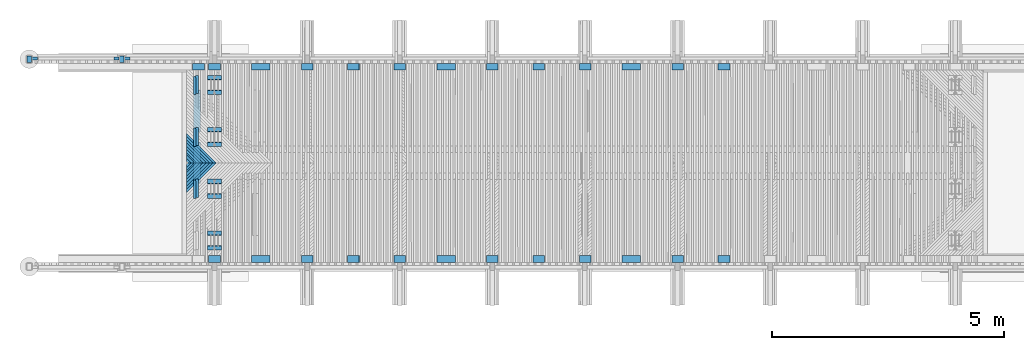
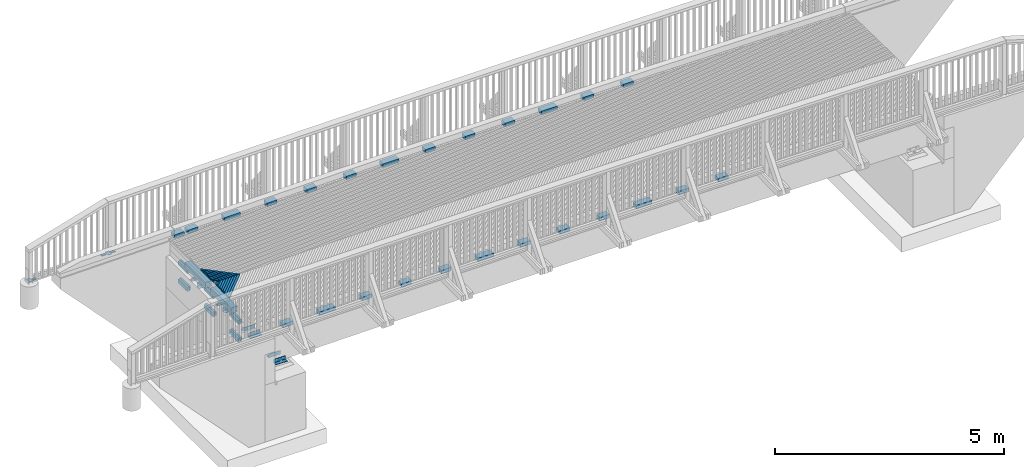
# One storey, part 49 of 53: 70 beams.
"""IFC2X3 building model written with IfcOpenShell, lengths in millimetres."""

from ifc_helpers import new_model, si_unit, frame, origin_with_axes, place, context, subcontext, project, spatial, faceted_brep, material, type_object, element, save


model = new_model("IFC2X3")

# Units and contexts
model_context = context("Model", 3, precision=1e-05, world=origin_with_axes())
body_context = subcontext(model_context, "Body", "Model", "MODEL_VIEW")
ifc_project = project(units=[si_unit("LENGTHUNIT", "METRE", prefix="MILLI"), si_unit("AREAUNIT", "SQUARE_METRE"), si_unit("VOLUMEUNIT", "CUBIC_METRE"), si_unit("MASSUNIT", "GRAM", prefix="KILO"), si_unit("TIMEUNIT", "SECOND"), si_unit("PLANEANGLEUNIT", "RADIAN"), si_unit("SOLIDANGLEUNIT", "STERADIAN"), si_unit("THERMODYNAMICTEMPERATUREUNIT", "DEGREE_CELSIUS"), si_unit("LUMINOUSINTENSITYUNIT", "LUMEN")], contexts=[model_context])

# Site, building, storey
site_placement = place(None, origin_with_axes())
site = spatial("IfcSite", under=ifc_project, at=site_placement, Name="Undefined", CompositionType="ELEMENT")
building_placement = place(site_placement, origin_with_axes())
building = spatial("IfcBuilding", under=site, at=building_placement, Name="Undefined", CompositionType="ELEMENT")
storey_placement = place(building_placement, origin_with_axes())
storey = spatial("IfcBuildingStorey", under=building, at=storey_placement, Name="Undefined", CompositionType="ELEMENT", Elevation=0.0)

# Beams
ifc_material_1 = material(Name="STEEL/AISI316")
beam_type_1 = type_object("IfcBeamType", Name="PL60*10", PredefinedType="NOTDEFINED")
for number, where, z_axis, x_axis in (
    (1, (-3940.00349607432, 44620.0000002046, 3073.75999999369), (-0.000116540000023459, -0.999999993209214, 0.0), (0.999999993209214, -0.000116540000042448, 0.0)),
    (2, (-2059.99650392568, 44620.0000002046, 3101.8699999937), (0.000116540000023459, -0.999999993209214, 0.0), (-0.999999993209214, -0.000116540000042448, 0.0)),
    (3, (-1940.00349607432, 44620.0000002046, 3101.86999999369), (-0.000116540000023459, -0.999999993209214, 0.0), (0.999999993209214, -0.000116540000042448, 0.0)),
):
    element("IfcBeam", number, at=place(storey_placement, frame(where, z_axis=z_axis, x_axis=x_axis)), inside=storey, type_object=beam_type_1, material=ifc_material_1, Name="KAIDEPYLVÄS", ObjectType="PL60*10", context=body_context, shape_type="Brep", body=[
        faceted_brep([(0.0, 5.0, -29.9999999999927), (-3.63797880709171e-12, 5.0, 30.0), (115.000000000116, 5.0, 29.9999999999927), (115.00000000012, 5.0, -30.0), (-3.63797880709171e-12, -5.0, 30.0), (115.000000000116, -5.0, 29.9999999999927), (0.0, -5.0, -29.9999999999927), (115.00000000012, -5.0, -30.0)], [[[0, 1, 2, 3]], [[1, 4, 5, 2]], [[4, 6, 7, 5]], [[6, 0, 3, 7]], [[5, 7, 3, 2]], [[6, 4, 1, 0]]]),
    ])
beam_type_2 = type_object("IfcBeamType", Name="PL100*10", PredefinedType="NOTDEFINED")
for number, where, z_axis, x_axis in (
    (4, (-3999.99999987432, 44674.9800000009, 3089.56000000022), (-1.0, 0.0, 0.0), (0.0, -1.0, 0.0)),
    (5, (-1999.99999987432, 44674.9800000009, 3117.67000000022), (-1.0, 0.0, 0.0), (0.0, -1.0, 0.0)),
):
    element("IfcBeam", number, at=place(storey_placement, frame(where, z_axis=z_axis, x_axis=x_axis)), inside=storey, type_object=beam_type_2, material=ifc_material_1, Name="KAIDEPYLVÄS", ObjectType="PL100*10", context=body_context, shape_type="Brep", body=[
        faceted_brep([(0.0, 5.0, -50.0), (0.0, 5.0, 50.0), (140.0, 5.0, 50.0), (140.0, 5.0, -50.0), (0.0, -5.0, 50.0), (140.0, -5.0, 50.0), (0.0, -5.0, -50.0), (140.0, -5.0, -50.0)], [[[0, 1, 2, 3]], [[1, 4, 5, 2]], [[4, 6, 7, 5]], [[6, 0, 3, 7]], [[5, 7, 3, 2]], [[6, 4, 1, 0]]]),
    ])
ifc_material_2 = material(Name="TIMBER/Timber_Undefined")
beam_type_3 = type_object("IfcBeamType", Name="150*100", PredefinedType="NOTDEFINED")
for number, where, z_axis, x_axis in (
    (6, (8804.3535367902, 40289.9999999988, 3218.05327472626), (0.0, -1.0, 0.0), (0.999992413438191, 0.0, -0.00389526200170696)),
    (7, (4802.73374412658, 40289.9999999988, 3210.1013407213), (0.0, -1.0, 0.0), (0.9999962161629, 0.0, 0.002750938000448)),
    (8, (801.255181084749, 40289.9999999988, 3175.55415743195), (0.0, -1.0, 0.0), (0.999955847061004, 0.0, 0.0093970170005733)),
    (9, (4802.73374412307, 44439.9999999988, 3210.10134072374), (0.0, -1.0, 0.0), (0.9999962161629, 0.0, 0.002750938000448)),
    (10, (801.255181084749, 44439.9999999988, 3175.55415743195), (0.0, -1.0, 0.0), (0.999955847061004, 0.0, 0.0093970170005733)),
    (11, (8804.3535367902, 44439.9999999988, 3218.05327472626), (0.0, -1.0, 0.0), (0.999992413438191, 0.0, -0.00389526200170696)),
):
    element("IfcBeam", number, at=place(storey_placement, frame(where, z_axis=z_axis, x_axis=x_axis)), inside=storey, type_object=beam_type_3, material=ifc_material_2, Name="TÖRMÄYSJOHDE", ObjectType="150*100", context=body_context, shape_type="Brep", body=[
        faceted_brep([(-3.63797880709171e-12, 50.0, -75.0), (-3.63797880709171e-12, 50.0, 75.0), (399.996161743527, 49.9999999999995, 75.0), (399.996161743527, 49.9999999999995, -75.0), (0.0, -49.9999999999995, 75.0), (399.996161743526, -50.0000000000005, 75.0), (0.0, -49.9999999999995, -75.0), (399.996161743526, -50.0000000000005, -75.0)], [[[0, 1, 2, 3]], [[1, 4, 5, 2]], [[4, 6, 7, 5]], [[6, 0, 3, 7]], [[5, 7, 3, 2]], [[6, 4, 1, 0]]]),
    ])
for number, where, z_axis, x_axis in (
    (12, (2876.78354707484, 44439.9999999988, 3196.15064859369), (0.0, -1.0, 0.0), (0.999952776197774, 0.0, 0.00971830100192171)),
    (13, (2876.78354707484, 40289.9999999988, 3196.15064859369), (0.0, -1.0, 0.0), (0.999952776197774, 0.0, 0.00971830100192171)),
    (14, (10879.9723136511, 44439.9999999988, 3211.05994825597), (0.0, -1.0, 0.0), (0.999993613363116, 0.0, -0.00357396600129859)),
    (15, (10879.9723136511, 40289.9999999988, 3211.05994825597), (0.0, -1.0, 0.0), (0.999993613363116, 0.0, -0.00357396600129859)),
    (16, (9879.57254634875, 44439.9999999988, 3215.01406825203), (0.0, -1.0, 0.0), (0.999998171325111, 0.0, -0.00191241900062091)),
    (17, (9879.57254634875, 40289.9999999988, 3215.01406825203), (0.0, -1.0, 0.0), (0.999998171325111, 0.0, -0.00191241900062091)),
    (18, (7878.76020647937, 44439.9999999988, 3217.93563478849), (0.0, -1.0, 0.0), (0.99999900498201, 0.0, 0.00141068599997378)),
    (19, (7878.76020647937, 40289.9999999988, 3217.93563478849), (0.0, -1.0, 0.0), (0.99999900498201, 0.0, 0.00141068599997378)),
    (20, (6878.35315767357, 44439.9999999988, 3216.90307326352), (0.0, -1.0, 0.0), (0.99999528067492, 0.0, 0.00307223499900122)),
    (21, (6878.35315767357, 40289.9999999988, 3216.90307326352), (0.0, -1.0, 0.0), (0.99999528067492, 0.0, 0.00307223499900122)),
    (22, (5877.94920546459, 44439.9999999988, 3214.20828414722), (0.0, -1.0, 0.0), (0.99998879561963, 0.0, 0.00473377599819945)),
    (23, (5877.94920546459, 40289.9999999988, 3214.20828414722), (0.0, -1.0, 0.0), (0.99998879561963, 0.0, 0.00473377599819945)),
    (24, (3877.16163831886, 44439.9999999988, 3203.83205748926), (0.0, -1.0, 0.0), (0.999967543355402, 0.0, 0.00805681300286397)),
    (25, (3877.16163831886, 40289.9999999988, 3203.83205748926), (0.0, -1.0, 0.0), (0.999967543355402, 0.0, 0.00805681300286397)),
    (26, (1876.41959979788, 44439.9999999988, 3186.80706939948), (0.0, -1.0, 0.0), (0.999935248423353, 0.0, 0.0113797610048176)),
    (27, (1876.41959979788, 40289.9999999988, 3186.80706939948), (0.0, -1.0, 0.0), (0.999935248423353, 0.0, 0.0113797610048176)),
    (28, (-124.254815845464, 44439.9999999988, 3163.13350788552), (0.0, -1.0, 0.0), (0.999891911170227, 0.0, 0.0147025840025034)),
    (29, (-124.254815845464, 40289.9999999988, 3163.13350788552), (0.0, -1.0, 0.0), (0.999891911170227, 0.0, 0.0147025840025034)),
    (30, (-469.724815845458, 44439.9999999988, 3158.3535078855), (0.0, -1.0, 0.0), (0.999891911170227, 0.0, 0.0147025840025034)),
):
    element("IfcBeam", number, at=place(storey_placement, frame(where, z_axis=z_axis, x_axis=x_axis)), inside=storey, type_object=beam_type_3, material=ifc_material_2, Name="TÖRMÄYSJOHDE", ObjectType="150*100", context=body_context, shape_type="Brep", body=[
        faceted_brep([(-3.63797880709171e-12, 50.0, -75.0), (-3.63797880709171e-12, 50.0, 75.0), (250.000589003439, 50.0000000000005, 75.0), (250.000589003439, 50.0000000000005, -75.0), (0.0, -49.9999999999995, 75.0), (250.000589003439, -50.0, 75.0), (0.0, -49.9999999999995, -75.0), (250.000589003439, -50.0, -75.0)], [[[0, 1, 2, 3]], [[1, 4, 5, 2]], [[4, 6, 7, 5]], [[6, 0, 3, 7]], [[5, 7, 3, 2]], [[6, 4, 1, 0]]]),
    ])
beam_type_4 = type_object("IfcBeamType", Name="150*150", PredefinedType="NOTDEFINED")
for number, where, z_axis, x_axis, name in (
    (31, (-375.006122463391, 43035.0011300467, 2658.99214114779), (4.45050000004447e-05, 0.0, 0.999999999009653), (0.0, 1.0, 0.0), "BEAM"),
    (32, (-375.006122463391, 41915.0011300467, 2658.99214114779), (4.45050000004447e-05, 0.0, 0.999999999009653), (0.0, 1.0, 0.0), "BEAM"),
):
    element("IfcBeam", number, at=place(storey_placement, frame(where, z_axis=z_axis, x_axis=x_axis)), inside=storey, type_object=beam_type_4, material=ifc_material_2, Name=name, ObjectType="150*150", context=body_context, shape_type="Brep", body=[
        faceted_brep([(3.63797880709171e-12, 75.0000000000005, -75.0), (3.63797880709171e-12, 75.0000000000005, 75.0), (900.0, 75.0, 75.0000000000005), (900.0, 74.9999999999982, -74.9999999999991), (0.0, -75.0000000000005, 75.0), (900.0, -75.0000000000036, 75.0000000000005), (0.0, -75.0000000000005, -75.0), (900.0, -75.0, -74.9999999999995)], [[[0, 1, 2, 3]], [[1, 4, 5, 2]], [[4, 6, 7, 5]], [[6, 0, 3, 7]], [[5, 7, 3, 2]], [[6, 4, 1, 0]]]),
    ])
beam_type_5 = type_object("IfcBeamType", Name="50*50", PredefinedType="NOTDEFINED")
beam_1_placement = place(storey_placement, frame((-537.985484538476, 42364.5001003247, 3175.22917320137), z_axis=(0.707225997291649, -0.706981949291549, -0.00281285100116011), x_axis=(-0.706806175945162, -0.706948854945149, -0.0254626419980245)))
element("IfcBeam", 33, at=beam_1_placement, inside=storey, type_object=beam_type_5, material=ifc_material_2, Name="BEAM", ObjectType="50*50", context=body_context, shape_type="Brep", body=[
    faceted_brep([(23.4806436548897, -25.0, -25.0), (-26.4222658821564, -25.0000000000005, 25.0000000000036), (-25.0086637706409, 24.9999999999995, 24.9999999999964), (24.8942457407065, 25.0, -25.0), (62.1578303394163, -25.0, -25.0), (112.187528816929, -25.0, 24.9999999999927), (113.32030658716, 25.0, 24.9999999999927), (63.290608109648, 25.0, -25.0)], [[[0, 1, 2, 3]], [[1, 0, 4, 5]], [[2, 1, 5, 6]], [[3, 2, 6, 7]], [[0, 3, 7, 4]], [[6, 5, 4, 7]]]),
])
beam_2_placement = place(storey_placement, frame((-537.985484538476, 42365.4998996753, 3175.22917320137), z_axis=(0.707225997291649, 0.706981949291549, -0.00281285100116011), x_axis=(-0.706806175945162, 0.706948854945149, -0.0254626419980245)))
element("IfcBeam", 34, at=beam_2_placement, inside=storey, type_object=beam_type_5, material=ifc_material_2, Name="BEAM", ObjectType="50*50", context=body_context, shape_type="Brep", body=[
    faceted_brep([(25.0011701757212, -24.9999999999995, -24.9999999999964), (-25.001170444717, -24.9999999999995, 25.0000000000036), (-26.415415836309, 25.0000000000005, 25.0000000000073), (23.5869248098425, 25.0000000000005, -24.9999999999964), (112.187528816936, 25.0000000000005, 24.9999999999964), (62.1578303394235, 25.0000000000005, -25.0), (63.2906081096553, -24.9999999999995, -25.0), (113.320306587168, -25.0, 24.9999999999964)], [[[0, 1, 2, 3]], [[3, 2, 4, 5]], [[0, 3, 5, 6]], [[1, 0, 6, 7]], [[2, 1, 7, 4]], [[6, 5, 4, 7]]]),
])
beam_3_placement = place(storey_placement, frame((-467.268344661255, 42364.5001003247, 3176.23083387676), z_axis=(0.70722566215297, -0.706981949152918, -0.00289592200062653), x_axis=(-0.706809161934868, -0.706948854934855, -0.0253796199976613)))
element("IfcBeam", 35, at=beam_3_placement, inside=storey, type_object=beam_type_5, material=ifc_material_2, Name="BEAM", ObjectType="50*50", context=body_context, shape_type="Brep", body=[
    faceted_brep([(23.4806436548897, -25.0, -25.0), (-26.4222658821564, -25.0000000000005, 25.0000000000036), (-25.0086637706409, 24.9999999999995, 24.9999999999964), (24.8942457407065, 25.0, -25.0), (162.212982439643, -25.0, -24.9999999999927), (212.242445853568, -25.0, 25.0000000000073), (213.366912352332, 25.0000000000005, 25.0), (163.337448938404, 25.0000000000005, -25.0)], [[[0, 1, 2, 3]], [[1, 0, 4, 5]], [[2, 1, 5, 6]], [[3, 2, 6, 7]], [[0, 3, 7, 4]], [[6, 5, 4, 7]]]),
])
beam_4_placement = place(storey_placement, frame((-467.268344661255, 42365.4998996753, 3176.23083387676), z_axis=(0.70722566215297, 0.706981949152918, -0.00289592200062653), x_axis=(-0.706809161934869, 0.706948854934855, -0.0253796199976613)))
element("IfcBeam", 36, at=beam_4_placement, inside=storey, type_object=beam_type_5, material=ifc_material_2, Name="BEAM", ObjectType="50*50", context=body_context, shape_type="Brep", body=[
    faceted_brep([(25.0011701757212, -24.9999999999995, -24.9999999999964), (-25.001170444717, -24.9999999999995, 25.0000000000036), (-26.415415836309, 25.0000000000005, 25.0000000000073), (23.5869248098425, 25.0000000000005, -24.9999999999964), (212.242445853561, 25.0, 25.0000000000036), (162.212982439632, 25.0000000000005, -24.9999999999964), (163.337448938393, -25.0, -25.0000000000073), (213.366912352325, -25.0, 25.0)], [[[0, 1, 2, 3]], [[3, 2, 4, 5]], [[0, 3, 5, 6]], [[1, 0, 6, 7]], [[2, 1, 7, 4]], [[6, 5, 4, 7]]]),
])
beam_5_placement = place(storey_placement, frame((-421.551087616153, 42364.5001003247, 3177.22418806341), z_axis=(0.707225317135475, -0.706981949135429, -0.00297899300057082), x_axis=(-0.706812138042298, -0.706948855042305, -0.0252965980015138)))
element("IfcBeam", 37, at=beam_5_placement, inside=storey, type_object=beam_type_5, material=ifc_material_2, Name="BEAM", ObjectType="50*50", context=body_context, shape_type="Brep", body=[
    faceted_brep([(23.4806436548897, -25.0, -25.0), (-26.4222658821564, -25.0000000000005, 25.0000000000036), (-25.0086637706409, 24.9999999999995, 24.9999999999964), (24.8942457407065, 25.0, -25.0), (226.897381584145, -24.9999999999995, -25.0), (276.926609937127, -25.0, 25.0), (278.042765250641, 25.0000000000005, 25.0000000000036), (228.013536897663, 25.0000000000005, -25.0)], [[[0, 1, 2, 3]], [[1, 0, 4, 5]], [[2, 1, 5, 6]], [[3, 2, 6, 7]], [[0, 3, 7, 4]], [[6, 5, 4, 7]]]),
])
beam_6_placement = place(storey_placement, frame((-421.551087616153, 42365.4998996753, 3177.22418806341), z_axis=(0.707225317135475, 0.706981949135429, -0.00297899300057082), x_axis=(-0.706812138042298, 0.706948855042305, -0.0252965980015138)))
element("IfcBeam", 38, at=beam_6_placement, inside=storey, type_object=beam_type_5, material=ifc_material_2, Name="BEAM", ObjectType="50*50", context=body_context, shape_type="Brep", body=[
    faceted_brep([(25.0011701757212, -24.9999999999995, -24.9999999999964), (-25.001170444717, -24.9999999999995, 25.0000000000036), (-26.415415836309, 25.0000000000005, 25.0000000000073), (23.5869248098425, 25.0000000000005, -24.9999999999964), (276.926609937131, 25.0, 25.0000000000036), (226.897381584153, 24.9999999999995, -25.0), (228.013536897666, -25.0, -25.0000000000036), (278.042765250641, -25.0000000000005, 25.0000000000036)], [[[0, 1, 2, 3]], [[3, 2, 4, 5]], [[0, 3, 5, 6]], [[1, 0, 6, 7]], [[2, 1, 7, 4]], [[6, 5, 4, 7]]]),
])
beam_7_placement = place(storey_placement, frame((-350.833714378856, 42364.5001003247, 3178.20923574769), z_axis=(0.707224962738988, -0.706981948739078, -0.00306206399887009), x_axis=(-0.706815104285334, -0.706948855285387, -0.0252135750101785)))
element("IfcBeam", 39, at=beam_7_placement, inside=storey, type_object=beam_type_5, material=ifc_material_2, Name="BEAM", ObjectType="50*50", context=body_context, shape_type="Brep", body=[
    faceted_brep([(23.4806436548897, -25.0, -25.0), (-26.4222658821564, -25.0000000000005, 25.0000000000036), (-25.0086637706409, 24.9999999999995, 24.9999999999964), (24.8942457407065, 25.0, -25.0), (326.951333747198, -24.9999999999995, -25.0), (376.980327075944, -24.9999999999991, 25.0000000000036), (378.088171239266, 25.0000000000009, 25.0), (328.059177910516, 25.0000000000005, -24.9999999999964)], [[[0, 1, 2, 3]], [[1, 0, 4, 5]], [[2, 1, 5, 6]], [[3, 2, 6, 7]], [[0, 3, 7, 4]], [[6, 5, 4, 7]]]),
])
beam_8_placement = place(storey_placement, frame((-350.833714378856, 42365.4998996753, 3178.20923574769), z_axis=(0.707224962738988, 0.706981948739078, -0.00306206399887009), x_axis=(-0.706815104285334, 0.706948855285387, -0.0252135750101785)))
element("IfcBeam", 40, at=beam_8_placement, inside=storey, type_object=beam_type_5, material=ifc_material_2, Name="BEAM", ObjectType="50*50", context=body_context, shape_type="Brep", body=[
    faceted_brep([(25.0011701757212, -24.9999999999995, -24.9999999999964), (-25.001170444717, -24.9999999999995, 25.0000000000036), (-26.415415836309, 25.0000000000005, 25.0000000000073), (23.5869248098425, 25.0000000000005, -24.9999999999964), (376.980327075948, 25.0000000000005, 25.0000000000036), (326.951333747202, 25.0, -25.0000000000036), (328.059177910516, -24.9999999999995, -25.0), (378.088171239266, -25.0, 24.9999999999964)], [[[0, 1, 2, 3]], [[3, 2, 4, 5]], [[0, 3, 5, 6]], [[1, 0, 6, 7]], [[2, 1, 7, 4]], [[6, 5, 4, 7]]]),
])
beam_9_placement = place(storey_placement, frame((-280.116225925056, 42364.5001003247, 3179.18597691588), z_axis=(0.707224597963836, -0.70698194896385, -0.00314513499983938), x_axis=(-0.706818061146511, -0.706948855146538, -0.0251305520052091)))
element("IfcBeam", 41, at=beam_9_placement, inside=storey, type_object=beam_type_5, material=ifc_material_2, Name="BEAM", ObjectType="50*50", context=body_context, shape_type="Brep", body=[
    faceted_brep([(23.4806436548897, -25.0, -25.0), (-26.4222658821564, -25.0000000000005, 25.0000000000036), (-25.0086637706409, 24.9999999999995, 24.9999999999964), (24.8942457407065, 25.0, -25.0), (427.00461517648, -25.0000000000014, -24.9999999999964), (477.033373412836, -25.0000000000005, 25.0), (478.13290651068, 24.9999999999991, 24.9999999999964), (428.104148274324, 24.9999999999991, -25.0)], [[[0, 1, 2, 3]], [[1, 0, 4, 5]], [[2, 1, 5, 6]], [[3, 2, 6, 7]], [[0, 3, 7, 4]], [[6, 5, 4, 7]]]),
])
beam_10_placement = place(storey_placement, frame((-280.116225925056, 42365.4998996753, 3179.18597691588), z_axis=(0.707224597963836, 0.70698194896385, -0.00314513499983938), x_axis=(-0.706818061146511, 0.706948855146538, -0.0251305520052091)))
element("IfcBeam", 42, at=beam_10_placement, inside=storey, type_object=beam_type_5, material=ifc_material_2, Name="BEAM", ObjectType="50*50", context=body_context, shape_type="Brep", body=[
    faceted_brep([(25.0011701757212, -24.9999999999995, -24.9999999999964), (-25.001170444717, -24.9999999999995, 25.0000000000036), (-26.415415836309, 25.0000000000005, 25.0000000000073), (23.5869248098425, 25.0000000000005, -24.9999999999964), (477.033373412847, 25.0, 25.0000000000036), (427.004615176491, 25.0000000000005, -24.9999999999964), (428.104148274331, -24.9999999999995, -25.0), (478.132906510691, -24.9999999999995, 24.9999999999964)], [[[0, 1, 2, 3]], [[3, 2, 4, 5]], [[0, 3, 5, 6]], [[1, 0, 6, 7]], [[2, 1, 7, 4]], [[6, 5, 4, 7]]]),
])
beam_11_placement = place(storey_placement, frame((-209.39862323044, 42364.5001003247, 3180.15441155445), z_axis=(0.707224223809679, -0.706981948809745, -0.00322820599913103), x_axis=(-0.706821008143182, -0.706948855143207, -0.025047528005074)))
element("IfcBeam", 43, at=beam_11_placement, inside=storey, type_object=beam_type_5, material=ifc_material_2, Name="BEAM", ObjectType="50*50", context=body_context, shape_type="Brep", body=[
    faceted_brep([(23.4806436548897, -25.0, -25.0), (-26.4222658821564, -25.0000000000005, 25.0000000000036), (-25.0086637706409, 24.9999999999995, 24.9999999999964), (24.8942457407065, 25.0, -25.0), (527.05722883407, -25.0000000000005, -25.0000000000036), (577.085752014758, -25.0000000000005, 25.0), (578.176974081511, 24.9999999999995, 25.0), (528.148450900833, 24.9999999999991, -24.9999999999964)], [[[0, 1, 2, 3]], [[1, 0, 4, 5]], [[2, 1, 5, 6]], [[3, 2, 6, 7]], [[0, 3, 7, 4]], [[6, 5, 4, 7]]]),
])
beam_12_placement = place(storey_placement, frame((-209.39862323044, 42365.4998996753, 3180.15441155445), z_axis=(0.707224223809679, 0.706981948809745, -0.00322820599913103), x_axis=(-0.706821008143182, 0.706948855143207, -0.025047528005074)))
element("IfcBeam", 44, at=beam_12_placement, inside=storey, type_object=beam_type_5, material=ifc_material_2, Name="BEAM", ObjectType="50*50", context=body_context, shape_type="Brep", body=[
    faceted_brep([(25.0011701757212, -24.9999999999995, -24.9999999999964), (-25.001170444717, -24.9999999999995, 25.0000000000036), (-26.415415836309, 25.0000000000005, 25.0000000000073), (23.5869248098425, 25.0000000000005, -24.9999999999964), (577.085752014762, 25.0000000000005, 24.9999999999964), (527.057228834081, 25.0000000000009, -25.0000000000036), (528.148450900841, -24.9999999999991, -24.9999999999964), (578.176974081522, -24.9999999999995, 25.0)], [[[0, 1, 2, 3]], [[3, 2, 4, 5]], [[0, 3, 5, 6]], [[1, 0, 6, 7]], [[2, 1, 7, 4]], [[6, 5, 4, 7]]]),
])
beam_13_placement = place(storey_placement, frame((-138.680907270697, 42364.5001003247, 3181.11453965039), z_axis=(0.707223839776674, -0.706981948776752, -0.00331127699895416), x_axis=(-0.706823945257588, -0.706948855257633, -0.0249645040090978)))
element("IfcBeam", 45, at=beam_13_placement, inside=storey, type_object=beam_type_5, material=ifc_material_2, Name="BEAM", ObjectType="50*50", context=body_context, shape_type="Brep", body=[
    faceted_brep([(23.4806436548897, -25.0, -25.0), (-26.4222658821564, -25.0000000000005, 25.0000000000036), (-25.0086637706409, 24.9999999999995, 24.9999999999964), (24.8942457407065, 25.0, -25.0), (627.10917754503, -25.0, -25.0), (677.137465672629, -25.0, 24.9999999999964), (678.220376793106, 25.0, 25.0), (628.192088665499, 25.0, -25.0000000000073)], [[[0, 1, 2, 3]], [[1, 0, 4, 5]], [[2, 1, 5, 6]], [[3, 2, 6, 7]], [[0, 3, 7, 4]], [[6, 5, 4, 7]]]),
])
beam_14_placement = place(storey_placement, frame((-138.680907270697, 42365.4998996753, 3181.11453965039), z_axis=(0.707223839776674, 0.706981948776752, -0.00331127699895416), x_axis=(-0.706823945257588, 0.706948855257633, -0.0249645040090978)))
element("IfcBeam", 46, at=beam_14_placement, inside=storey, type_object=beam_type_5, material=ifc_material_2, Name="BEAM", ObjectType="50*50", context=body_context, shape_type="Brep", body=[
    faceted_brep([(25.0011701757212, -24.9999999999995, -24.9999999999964), (-25.001170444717, -24.9999999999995, 25.0000000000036), (-26.415415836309, 25.0000000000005, 25.0000000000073), (23.5869248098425, 25.0000000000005, -24.9999999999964), (677.137465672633, 25.0, 25.0000000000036), (627.109177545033, 25.0, -24.9999999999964), (628.192088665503, -25.0000000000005, -25.0000000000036), (678.22037679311, -25.0000000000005, 25.0000000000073)], [[[0, 1, 2, 3]], [[3, 2, 4, 5]], [[0, 3, 5, 6]], [[1, 0, 6, 7]], [[2, 1, 7, 4]], [[6, 5, 4, 7]]]),
])
beam_15_placement = place(storey_placement, frame((-67.9630790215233, 42364.5001003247, 3182.06636119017), z_axis=(0.707223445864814, -0.706981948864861, -0.00339434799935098), x_axis=(-0.706826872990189, -0.706948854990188, -0.0248814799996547)))
element("IfcBeam", 47, at=beam_15_placement, inside=storey, type_object=beam_type_5, material=ifc_material_2, Name="BEAM", ObjectType="50*50", context=body_context, shape_type="Brep", body=[
    faceted_brep([(23.4806436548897, -25.0, -25.0), (-26.4222658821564, -25.0000000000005, 25.0000000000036), (-25.0086637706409, 24.9999999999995, 24.9999999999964), (24.8942457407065, 25.0, -25.0), (727.160463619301, -24.9999999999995, -25.0000000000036), (777.188516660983, -24.9999999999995, 24.9999999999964), (778.263116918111, 25.0000000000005, 24.9999999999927), (728.235063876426, 25.0000000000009, -25.0000000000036)], [[[0, 1, 2, 3]], [[1, 0, 4, 5]], [[2, 1, 5, 6]], [[3, 2, 6, 7]], [[0, 3, 7, 4]], [[6, 5, 4, 7]]]),
])
beam_16_placement = place(storey_placement, frame((-67.9630790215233, 42365.4998996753, 3182.06636119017), z_axis=(0.707223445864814, 0.706981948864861, -0.00339434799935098), x_axis=(-0.706826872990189, 0.706948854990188, -0.0248814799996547)))
element("IfcBeam", 48, at=beam_16_placement, inside=storey, type_object=beam_type_5, material=ifc_material_2, Name="BEAM", ObjectType="50*50", context=body_context, shape_type="Brep", body=[
    faceted_brep([(25.0011701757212, -24.9999999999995, -24.9999999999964), (-25.001170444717, -24.9999999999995, 25.0000000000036), (-26.415415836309, 25.0000000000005, 25.0000000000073), (23.5869248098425, 25.0000000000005, -24.9999999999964), (777.188516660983, 25.0, 25.0), (727.160463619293, 25.0000000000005, -25.0000000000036), (728.235063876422, -25.0, -25.0), (778.263116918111, -24.9999999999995, 24.9999999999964)], [[[0, 1, 2, 3]], [[3, 2, 4, 5]], [[0, 3, 5, 6]], [[1, 0, 6, 7]], [[2, 1, 7, 4]], [[6, 5, 4, 7]]]),
])
beam_17_placement = place(storey_placement, frame((2.75486054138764, 42364.5001003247, 3183.00987616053), z_axis=(0.70722304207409, -0.706981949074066, -0.00347741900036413), x_axis=(-0.706829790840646, -0.706948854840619, -0.0247984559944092)))
element("IfcBeam", 49, at=beam_17_placement, inside=storey, type_object=beam_type_5, material=ifc_material_2, Name="BEAM", ObjectType="50*50", context=body_context, shape_type="Brep", body=[
    faceted_brep([(23.4806436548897, -25.0, -25.0), (-26.4222658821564, -25.0000000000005, 25.0000000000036), (-25.0086637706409, 24.9999999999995, 24.9999999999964), (24.8942457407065, 25.0, -25.0), (827.211090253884, -25.0000000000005, -25.0000000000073), (877.238908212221, -25.0000000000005, 24.9999999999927), (878.305197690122, 25.0, 24.9999999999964), (828.27737973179, 25.0, -25.0000000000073)], [[[0, 1, 2, 3]], [[1, 0, 4, 5]], [[2, 1, 5, 6]], [[3, 2, 6, 7]], [[0, 3, 7, 4]], [[6, 5, 4, 7]]]),
])
beam_18_placement = place(storey_placement, frame((2.75486054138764, 42365.4998996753, 3183.00987616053), z_axis=(0.70722304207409, 0.706981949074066, -0.00347741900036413), x_axis=(-0.706829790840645, 0.706948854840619, -0.0247984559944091)))
element("IfcBeam", 50, at=beam_18_placement, inside=storey, type_object=beam_type_5, material=ifc_material_2, Name="BEAM", ObjectType="50*50", context=body_context, shape_type="Brep", body=[
    faceted_brep([(25.0011701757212, -24.9999999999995, -24.9999999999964), (-25.001170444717, -24.9999999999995, 25.0000000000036), (-26.415415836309, 25.0000000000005, 25.0000000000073), (23.5869248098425, 25.0000000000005, -24.9999999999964), (877.238908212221, 25.0, 24.9999999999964), (827.211090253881, 25.0000000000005, -25.0000000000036), (828.277379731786, -25.0, -25.0000000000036), (878.305197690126, -25.0, 25.0000000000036)], [[[0, 1, 2, 3]], [[3, 2, 4, 5]], [[0, 3, 5, 6]], [[1, 0, 6, 7]], [[2, 1, 7, 4]], [[6, 5, 4, 7]]]),
])
ifc_material_3 = material(Name="STEEL/S235JR")
beam_type_6 = type_object("IfcBeamType", Name="L100*10", PredefinedType="NOTDEFINED")
for number, where, z_axis, x_axis, name in (
    (51, (150.0, 42767.5000000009, 2047.33), (0.0, -1.0, 0.0), (-1.0, 0.0, 0.0), "BEAM"),
    (52, (150.0, 43082.5000000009, 2047.33), (0.0, 0.0, 1.0), (-1.0, 0.0, 0.0), "BEAM"),
    (53, (150.0, 43887.5000000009, 2025.33), (0.0, -1.0, 0.0), (-1.0, 0.0, 0.0), "BEAM"),
    (54, (150.0, 44202.5000000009, 2025.33), (0.0, 0.0, 1.0), (-1.0, 0.0, 0.0), "BEAM"),
    (55, (-150.0, 41962.5, 2047.33), (0.0, 1.0, 0.0), (1.0, 0.0, 0.0), "BEAM"),
    (56, (-150.0, 41647.5, 2047.33), (0.0, 0.0, 1.0), (1.0, 0.0, 0.0), "BEAM"),
    (57, (-150.0, 40842.5, 2025.33), (0.0, 1.0, 0.0), (1.0, 0.0, 0.0), "BEAM"),
    (58, (-150.0, 40527.5, 2025.33), (0.0, 0.0, 1.0), (1.0, 0.0, 0.0), "BEAM"),
):
    element("IfcBeam", number, at=place(storey_placement, frame(where, z_axis=z_axis, x_axis=x_axis)), inside=storey, type_object=beam_type_6, material=ifc_material_3, Name=name, ObjectType="L100*10", context=body_context, shape_type="Brep", body=[
        faceted_brep([(0.0, 50.0, -50.0), (0.0, 50.0, 50.0), (300.0, 50.0, 50.0), (300.0, 50.0, -50.0), (0.0, 40.0, 50.0), (300.0, 40.0, 50.0), (0.0, 40.0, -40.0), (300.0, 40.0, -40.0), (0.0, -50.0, -40.0), (300.0, -50.0, -40.0), (0.0, -50.0, -50.0), (300.0, -50.0, -50.0)], [[[0, 1, 2, 3]], [[1, 4, 5, 2]], [[4, 6, 7, 5]], [[6, 8, 9, 7]], [[8, 10, 11, 9]], [[10, 0, 3, 11]], [[5, 7, 9, 11, 3, 2]], [[10, 8, 6, 4, 1, 0]]]),
    ])
beam_type_7 = type_object("IfcBeamType", Name="100*60", PredefinedType="NOTDEFINED")
beam_19_placement = place(storey_placement, frame((-380.01, 43857.5, 2533.62000000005), z_axis=(0.0, 0.0, 1.0), x_axis=(0.0, 1.0, 0.0)))
element("IfcBeam", 59, at=beam_19_placement, inside=storey, type_object=beam_type_7, material=ifc_material_2, Name="BEAM", ObjectType="100*60", context=body_context, shape_type="Brep", body=[
    faceted_brep([(0.0, -30.0, 50.0), (0.0, -30.0, -50.0), (395.0, -30.0, -50.0), (395.0, -30.0, 50.0), (0.0, 15.2499998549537, 50.0), (0.0, 15.2499998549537, -50.0), (395.0, 25.2500000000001, -50.0), (395.0, 25.2500000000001, 50.0)], [[[0, 1, 2, 3]], [[1, 0, 4, 5]], [[2, 1, 5, 6]], [[3, 2, 6, 7]], [[0, 3, 7, 4]], [[6, 5, 4, 7]]]),
])
beam_20_placement = place(storey_placement, frame((-420.01, 43837.5, 2533.62000000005), z_axis=(0.0, 0.0, 1.0), x_axis=(0.0, 1.0, 0.0)))
element("IfcBeam", 60, at=beam_20_placement, inside=storey, type_object=beam_type_7, material=ifc_material_2, Name="BEAM", ObjectType="100*60", context=body_context, shape_type="Brep", body=[
    faceted_brep([(0.0, 30.0, -50.0), (0.0, 30.0, 50.0), (395.0, 30.0, 50.0), (395.0, 30.0, -50.0), (0.0, -25.2563292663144, 50.0), (395.0, -15.2563291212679, 50.0), (395.0, -15.2563291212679, -50.0), (0.0, -25.2563292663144, -50.0)], [[[0, 1, 2, 3]], [[2, 1, 4, 5]], [[3, 2, 5, 6]], [[0, 3, 6, 7]], [[1, 0, 7, 4]], [[6, 5, 4, 7]]]),
])
beam_21_placement = place(storey_placement, frame((-380.0, 43857.5, 2055.33), z_axis=(0.0, 0.0, 1.0), x_axis=(0.0, 1.0, 0.0)))
element("IfcBeam", 61, at=beam_21_placement, inside=storey, type_object=beam_type_7, material=ifc_material_2, Name="BEAM", ObjectType="100*60", context=body_context, shape_type="Brep", body=[
    faceted_brep([(0.0, -30.0, 50.0), (0.0, -30.0, -50.0), (395.0, -30.0, -50.0), (395.0, -30.0, 50.0), (0.0, 15.2499998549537, 50.0), (0.0, 15.2499998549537, -50.0), (395.0, 25.2500000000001, -50.0), (395.0, 25.2500000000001, 50.0)], [[[0, 1, 2, 3]], [[1, 0, 4, 5]], [[2, 1, 5, 6]], [[3, 2, 6, 7]], [[0, 3, 7, 4]], [[6, 5, 4, 7]]]),
])
beam_22_placement = place(storey_placement, frame((-420.0, 43837.5, 2055.33), z_axis=(0.0, 0.0, 1.0), x_axis=(0.0, 1.0, 0.0)))
element("IfcBeam", 62, at=beam_22_placement, inside=storey, type_object=beam_type_7, material=ifc_material_2, Name="BEAM", ObjectType="100*60", context=body_context, shape_type="Brep", body=[
    faceted_brep([(0.0, 30.0, -50.0), (0.0, 30.0, 50.0), (395.0, 30.0, 50.0), (395.0, 30.0, -50.0), (0.0, -25.2563292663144, 50.0), (395.0, -15.2563291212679, 50.0), (395.0, -15.2563291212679, -50.0), (0.0, -25.2563292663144, -50.0)], [[[0, 1, 2, 3]], [[2, 1, 4, 5]], [[3, 2, 5, 6]], [[0, 3, 6, 7]], [[1, 0, 7, 4]], [[6, 5, 4, 7]]]),
])
beam_23_placement = place(storey_placement, frame((-380.01, 42737.5, 2533.62000000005), z_axis=(0.0, 0.0, 1.0), x_axis=(0.0, 1.0, 0.0)))
element("IfcBeam", 63, at=beam_23_placement, inside=storey, type_object=beam_type_7, material=ifc_material_2, Name="BEAM", ObjectType="100*60", context=body_context, shape_type="Brep", body=[
    faceted_brep([(0.0, -30.0, 50.0), (0.0, -30.0, -50.0), (395.0, -30.0, -50.0), (395.0, -30.0, 50.0), (0.0, 15.2499998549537, 50.0), (0.0, 15.2499998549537, -50.0), (395.0, 25.2500000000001, -50.0), (395.0, 25.2500000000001, 50.0)], [[[0, 1, 2, 3]], [[1, 0, 4, 5]], [[2, 1, 5, 6]], [[3, 2, 6, 7]], [[0, 3, 7, 4]], [[6, 5, 4, 7]]]),
])
beam_24_placement = place(storey_placement, frame((-420.01, 42717.5, 2533.62000000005), z_axis=(0.0, 0.0, 1.0), x_axis=(0.0, 1.0, 0.0)))
element("IfcBeam", 64, at=beam_24_placement, inside=storey, type_object=beam_type_7, material=ifc_material_2, Name="BEAM", ObjectType="100*60", context=body_context, shape_type="Brep", body=[
    faceted_brep([(0.0, 30.0, -50.0), (0.0, 30.0, 50.0), (395.0, 30.0, 50.0), (395.0, 30.0, -50.0), (0.0, -25.2563292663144, 50.0), (395.0, -15.2563291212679, 50.0), (395.0, -15.2563291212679, -50.0), (0.0, -25.2563292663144, -50.0)], [[[0, 1, 2, 3]], [[2, 1, 4, 5]], [[3, 2, 5, 6]], [[0, 3, 6, 7]], [[1, 0, 7, 4]], [[6, 5, 4, 7]]]),
])
beam_25_placement = place(storey_placement, frame((-380.0, 42737.5, 2055.33), z_axis=(0.0, 0.0, 1.0), x_axis=(0.0, 1.0, 0.0)))
element("IfcBeam", 65, at=beam_25_placement, inside=storey, type_object=beam_type_7, material=ifc_material_2, Name="BEAM", ObjectType="100*60", context=body_context, shape_type="Brep", body=[
    faceted_brep([(0.0, -30.0, 50.0), (0.0, -30.0, -50.0), (395.0, -30.0, -50.0), (395.0, -30.0, 50.0), (0.0, 15.2499998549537, 50.0), (0.0, 15.2499998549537, -50.0), (395.0, 25.2500000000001, -50.0), (395.0, 25.2500000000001, 50.0)], [[[0, 1, 2, 3]], [[1, 0, 4, 5]], [[2, 1, 5, 6]], [[3, 2, 6, 7]], [[0, 3, 7, 4]], [[6, 5, 4, 7]]]),
])
beam_26_placement = place(storey_placement, frame((-420.0, 42717.5, 2055.33), z_axis=(0.0, 0.0, 1.0), x_axis=(0.0, 1.0, 0.0)))
element("IfcBeam", 66, at=beam_26_placement, inside=storey, type_object=beam_type_7, material=ifc_material_2, Name="BEAM", ObjectType="100*60", context=body_context, shape_type="Brep", body=[
    faceted_brep([(0.0, 30.0, -50.0), (0.0, 30.0, 50.0), (395.0, 30.0, 50.0), (395.0, 30.0, -50.0), (0.0, -25.2563292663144, 50.0), (395.0, -15.2563291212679, 50.0), (395.0, -15.2563291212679, -50.0), (0.0, -25.2563292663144, -50.0)], [[[0, 1, 2, 3]], [[2, 1, 4, 5]], [[3, 2, 5, 6]], [[0, 3, 6, 7]], [[1, 0, 7, 4]], [[6, 5, 4, 7]]]),
])
beam_27_placement = place(storey_placement, frame((-380.01, 41617.5, 2533.62000000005), z_axis=(0.0, 0.0, 1.0), x_axis=(0.0, 1.0, 0.0)))
element("IfcBeam", 67, at=beam_27_placement, inside=storey, type_object=beam_type_7, material=ifc_material_2, Name="BEAM", ObjectType="100*60", context=body_context, shape_type="Brep", body=[
    faceted_brep([(0.0, -30.0, 50.0), (0.0, -30.0, -50.0), (395.0, -30.0, -50.0), (395.0, -30.0, 50.0), (0.0, 15.2499998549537, 50.0), (0.0, 15.2499998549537, -50.0), (395.0, 25.2500000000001, -50.0), (395.0, 25.2500000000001, 50.0)], [[[0, 1, 2, 3]], [[1, 0, 4, 5]], [[2, 1, 5, 6]], [[3, 2, 6, 7]], [[0, 3, 7, 4]], [[6, 5, 4, 7]]]),
])
beam_28_placement = place(storey_placement, frame((-420.01, 41597.5, 2533.62000000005), z_axis=(0.0, 0.0, 1.0), x_axis=(0.0, 1.0, 0.0)))
element("IfcBeam", 68, at=beam_28_placement, inside=storey, type_object=beam_type_7, material=ifc_material_2, Name="BEAM", ObjectType="100*60", context=body_context, shape_type="Brep", body=[
    faceted_brep([(0.0, 30.0, -50.0), (0.0, 30.0, 50.0), (395.0, 30.0, 50.0), (395.0, 30.0, -50.0), (0.0, -25.2563292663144, 50.0), (395.0, -15.2563291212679, 50.0), (395.0, -15.2563291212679, -50.0), (0.0, -25.2563292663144, -50.0)], [[[0, 1, 2, 3]], [[2, 1, 4, 5]], [[3, 2, 5, 6]], [[0, 3, 6, 7]], [[1, 0, 7, 4]], [[6, 5, 4, 7]]]),
])
beam_29_placement = place(storey_placement, frame((-380.0, 41617.5, 2055.33), z_axis=(0.0, 0.0, 1.0), x_axis=(0.0, 1.0, 0.0)))
element("IfcBeam", 69, at=beam_29_placement, inside=storey, type_object=beam_type_7, material=ifc_material_2, Name="BEAM", ObjectType="100*60", context=body_context, shape_type="Brep", body=[
    faceted_brep([(0.0, -30.0, 50.0), (0.0, -30.0, -50.0), (395.0, -30.0, -50.0), (395.0, -30.0, 50.0), (0.0, 15.2499998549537, 50.0), (0.0, 15.2499998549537, -50.0), (395.0, 25.2500000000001, -50.0), (395.0, 25.2500000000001, 50.0)], [[[0, 1, 2, 3]], [[1, 0, 4, 5]], [[2, 1, 5, 6]], [[3, 2, 6, 7]], [[0, 3, 7, 4]], [[6, 5, 4, 7]]]),
])
beam_30_placement = place(storey_placement, frame((-420.0, 41597.5, 2055.33), z_axis=(0.0, 0.0, 1.0), x_axis=(0.0, 1.0, 0.0)))
element("IfcBeam", 70, at=beam_30_placement, inside=storey, type_object=beam_type_7, material=ifc_material_2, Name="BEAM", ObjectType="100*60", context=body_context, shape_type="Brep", body=[
    faceted_brep([(0.0, 30.0, -50.0), (0.0, 30.0, 50.0), (395.0, 30.0, 50.0), (395.0, 30.0, -50.0), (0.0, -25.2563292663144, 50.0), (395.0, -15.2563291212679, 50.0), (395.0, -15.2563291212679, -50.0), (0.0, -25.2563292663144, -50.0)], [[[0, 1, 2, 3]], [[2, 1, 4, 5]], [[3, 2, 5, 6]], [[0, 3, 6, 7]], [[1, 0, 7, 4]], [[6, 5, 4, 7]]]),
])

save(model, "model.ifc")
